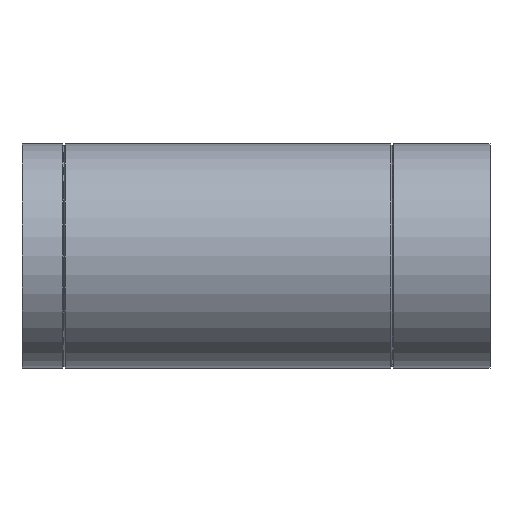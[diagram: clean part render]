
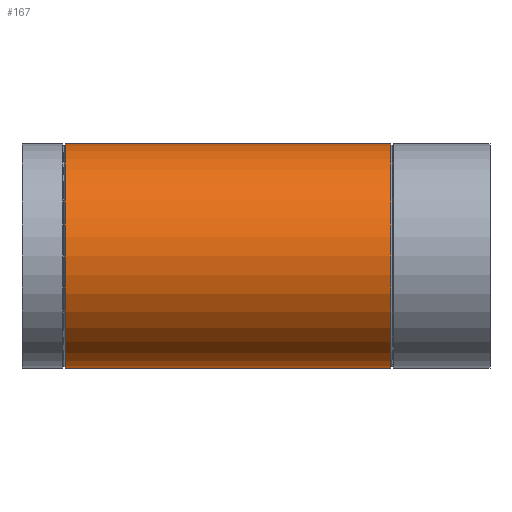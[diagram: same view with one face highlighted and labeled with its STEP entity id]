
A CAD part, left-side view. The second image highlights one B-rep face of the part: STEP entity #167.
In plain terms, the highlighted cylindrical face has radius 80.237 mm (diameter 160.475 mm), a full revolution.
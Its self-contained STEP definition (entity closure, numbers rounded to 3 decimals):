
#16=ELLIPSE($,#191,112.016,80.238);
#17=ELLIPSE($,#192,114.988,80.238);
#21=CYLINDRICAL_SURFACE($,#190,80.238);
#31=FACE_BOUND($,#65,.T.);
#32=FACE_BOUND($,#66,.T.);
#50=FACE_OUTER_BOUND($,#64,.T.);
#64=EDGE_LOOP($,(#136));
#65=EDGE_LOOP($,(#137,#138));
#66=EDGE_LOOP($,(#139));
#83=CIRCLE($,#180,80.238);
#88=CIRCLE($,#189,80.238);
#95=VERTEX_POINT($,#271);
#100=VERTEX_POINT($,#285);
#101=VERTEX_POINT($,#288);
#102=VERTEX_POINT($,#289);
#111=EDGE_CURVE($,#95,#95,#83,.T.);
#116=EDGE_CURVE($,#100,#100,#88,.T.);
#117=EDGE_CURVE($,#101,#102,#16,.T.);
#118=EDGE_CURVE($,#102,#101,#17,.T.);
#136=ORIENTED_EDGE($,*,*,#111,.T.);
#137=ORIENTED_EDGE($,*,*,#117,.T.);
#138=ORIENTED_EDGE($,*,*,#118,.T.);
#139=ORIENTED_EDGE($,*,*,#116,.T.);
#167=ADVANCED_FACE($,(#50,#31,#32),#21,.T.);
#180=AXIS2_PLACEMENT_3D($,#272,#213,#214);
#189=AXIS2_PLACEMENT_3D($,#286,#231,#232);
#190=AXIS2_PLACEMENT_3D($,#287,#233,#234);
#191=AXIS2_PLACEMENT_3D($,#290,#235,#236);
#192=AXIS2_PLACEMENT_3D($,#291,#237,#238);
#213=DIRECTION('center_axis',(0.,-1.,0.));
#214=DIRECTION('ref_axis',(1.,0.,0.));
#231=DIRECTION('center_axis',(0.,1.,0.));
#232=DIRECTION('ref_axis',(1.,0.,0.));
#233=DIRECTION('center_axis',(0.,1.,0.));
#234=DIRECTION('ref_axis',(1.,0.,0.));
#235=DIRECTION('center_axis',(-0.698,-0.716,0.));
#236=DIRECTION('ref_axis',(0.716,-0.698,0.));
#237=DIRECTION('center_axis',(-0.716,0.698,0.));
#238=DIRECTION('ref_axis',(-0.698,-0.716,0.));
#271=CARTESIAN_POINT('',(80.237,304.073,0.));
#272=CARTESIAN_POINT('Origin',(0.,304.073,0.));
#285=CARTESIAN_POINT('',(80.238,70.927,0.));
#286=CARTESIAN_POINT('Origin',(0.,70.927,0.));
#287=CARTESIAN_POINT('Origin',(0.,0.,0.));
#288=CARTESIAN_POINT('',(0.,185.,-80.238));
#289=CARTESIAN_POINT('',(0.,185.,80.238));
#290=CARTESIAN_POINT('Origin',(0.,185.,0.));
#291=CARTESIAN_POINT('Origin',(0.,185.,0.));
